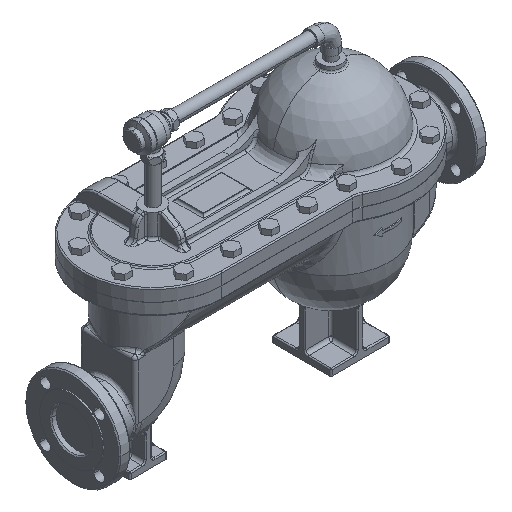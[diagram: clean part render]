
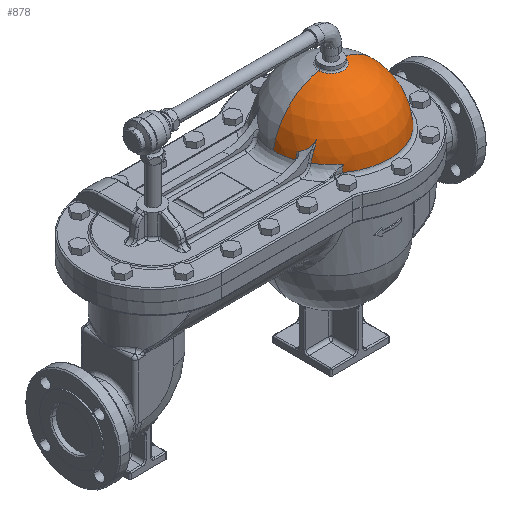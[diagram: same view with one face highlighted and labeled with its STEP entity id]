
A CAD part, isometric view. The second image highlights one B-rep face of the part: STEP entity #878.
In plain terms, the highlighted spherical face has radius 107 mm.
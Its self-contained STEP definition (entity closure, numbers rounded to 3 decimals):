
#878=ADVANCED_FACE('',(#9417),#9416,.T.);
#9416=SPHERICAL_SURFACE('',#21652,107.);
#9417=FACE_OUTER_BOUND('',#21653,.T.);
#21649=CARTESIAN_POINT('',(0.,0.,22.375));
#21650=DIRECTION('',(0.,0.,1.));
#21651=DIRECTION('',(-1.,0.009,0.));
#21652=AXIS2_PLACEMENT_3D('',#21649,#21650,#21651);
#21653=EDGE_LOOP('',(#26520,#26521,#26522,#26523,#26524,#26525,#26526,#26527,#26528,#26529,#26530,#26531,#26532));
#26520=ORIENTED_EDGE('',*,*,#28333,.F.);
#26521=ORIENTED_EDGE('',*,*,#28383,.F.);
#26522=ORIENTED_EDGE('',*,*,#28311,.T.);
#26523=ORIENTED_EDGE('',*,*,#28310,.T.);
#26524=ORIENTED_EDGE('',*,*,#28377,.F.);
#26525=ORIENTED_EDGE('',*,*,#28382,.F.);
#26526=ORIENTED_EDGE('',*,*,#28329,.F.);
#26527=ORIENTED_EDGE('',*,*,#28344,.F.);
#26528=ORIENTED_EDGE('',*,*,#28337,.F.);
#26529=ORIENTED_EDGE('',*,*,#29002,.T.);
#26530=ORIENTED_EDGE('',*,*,#29000,.F.);
#26531=ORIENTED_EDGE('',*,*,#28997,.F.);
#26532=ORIENTED_EDGE('',*,*,#29003,.F.);
#28310=EDGE_CURVE('',#38115,#38116,#38117,.T.);
#28311=EDGE_CURVE('',#38123,#38115,#38124,.T.);
#28329=EDGE_CURVE('',#38242,#38214,#38249,.T.);
#28333=EDGE_CURVE('',#38270,#38277,#38278,.T.);
#28337=EDGE_CURVE('',#38298,#38305,#38306,.T.);
#28344=EDGE_CURVE('',#38305,#38242,#38352,.T.);
#28377=EDGE_CURVE('',#38560,#38116,#38567,.T.);
#28382=EDGE_CURVE('',#38214,#38560,#38599,.T.);
#28383=EDGE_CURVE('',#38123,#38270,#38605,.T.);
#28997=EDGE_CURVE('',#42654,#42661,#42662,.T.);
#29000=EDGE_CURVE('',#42661,#42680,#42681,.T.);
#29002=EDGE_CURVE('',#38298,#42680,#42693,.T.);
#29003=EDGE_CURVE('',#38277,#42654,#42699,.T.);
#38115=VERTEX_POINT('',#49916);
#38116=VERTEX_POINT('',#49917);
#38117=(BOUNDED_CURVE() B_SPLINE_CURVE(3,(#49918,#49919,#49920,#49921,#49922,#49923,#49924,#49925,#49926,#49927,#49928,#49929,#49930,#49931),.UNSPECIFIED.,.F.,.F.) B_SPLINE_CURVE_WITH_KNOTS((4,2,2,2,2,2,4),(1.126,1.152,1.728,2.304,2.974,3.309,3.644),.UNSPECIFIED.) CURVE() GEOMETRIC_REPRESENTATION_ITEM() RATIONAL_B_SPLINE_CURVE((1.,1.,1.,1.,1.,1.,1.,1.,1.,1.,1.,1.,1.,1.)) REPRESENTATION_ITEM('') );
#38123=VERTEX_POINT('',#49932);
#38124=(BOUNDED_CURVE() B_SPLINE_CURVE(3,(#49933,#49934,#49935,#49936,#49937,#49938),.UNSPECIFIED.,.F.,.F.) B_SPLINE_CURVE_WITH_KNOTS((4,2,4),(5.045,5.344,5.69),.UNSPECIFIED.) CURVE() GEOMETRIC_REPRESENTATION_ITEM() RATIONAL_B_SPLINE_CURVE((1.,1.,1.,1.,1.,1.)) REPRESENTATION_ITEM('') );
#38214=VERTEX_POINT('',#50029);
#38242=VERTEX_POINT('',#50052);
#38249=CIRCLE('',#50064,105.479);
#38270=VERTEX_POINT('',#50078);
#38277=VERTEX_POINT('',#50086);
#38278=CIRCLE('',#50090,105.479);
#38298=VERTEX_POINT('',#50107);
#38305=VERTEX_POINT('',#50112);
#38306=CIRCLE('',#50116,106.849);
#38352=CIRCLE('',#50168,64.767);
#38560=VERTEX_POINT('',#50321);
#38567=(BOUNDED_CURVE() B_SPLINE_CURVE(3,(#50326,#50327,#50328,#50329,#50330,#50331),.UNSPECIFIED.,.F.,.F.) B_SPLINE_CURVE_WITH_KNOTS((4,2,4),(-1.447,0.,0.003),.UNSPECIFIED.) CURVE() GEOMETRIC_REPRESENTATION_ITEM() RATIONAL_B_SPLINE_CURVE((1.,1.,1.,1.,1.,1.)) REPRESENTATION_ITEM('') );
#38599=CIRCLE('',#50355,92.385);
#38605=CIRCLE('',#50359,101.216);
#42654=VERTEX_POINT('',#53207);
#42661=VERTEX_POINT('',#53212);
#42662=CIRCLE('',#53216,22.373);
#42680=VERTEX_POINT('',#53223);
#42681=CIRCLE('',#53227,22.373);
#42693=(BOUNDED_CURVE() B_SPLINE_CURVE(2,(#53232,#53233,#53234),.UNSPECIFIED.,.F.,.F.) B_SPLINE_CURVE_WITH_KNOTS((3,3),(0.,1.),.UNSPECIFIED.) CURVE() GEOMETRIC_REPRESENTATION_ITEM() RATIONAL_B_SPLINE_CURVE((1.,0.794,1.)) REPRESENTATION_ITEM('') );
#42699=(BOUNDED_CURVE() B_SPLINE_CURVE(2,(#53235,#53236,#53237),.UNSPECIFIED.,.F.,.F.) B_SPLINE_CURVE_WITH_KNOTS((3,3),(0.093,1.),.UNSPECIFIED.) CURVE() GEOMETRIC_REPRESENTATION_ITEM() RATIONAL_B_SPLINE_CURVE((0.724,0.61,0.75)) REPRESENTATION_ITEM('') );
#49916=CARTESIAN_POINT('',(-93.828,-40.,54.707));
#49917=CARTESIAN_POINT('',(-79.288,-52.,71.958));
#49918=CARTESIAN_POINT('',(-93.828,-40.,54.707));
#49919=CARTESIAN_POINT('',(-93.784,-40.071,54.746));
#49920=CARTESIAN_POINT('',(-93.74,-40.142,54.785));
#49921=CARTESIAN_POINT('',(-92.708,-41.799,55.711));
#49922=CARTESIAN_POINT('',(-91.66,-43.285,56.696));
#49923=CARTESIAN_POINT('',(-89.507,-45.95,58.846));
#49924=CARTESIAN_POINT('',(-88.403,-47.128,60.011));
#49925=CARTESIAN_POINT('',(-86.039,-49.268,62.672));
#49926=CARTESIAN_POINT('',(-84.621,-50.297,64.379));
#49927=CARTESIAN_POINT('',(-82.532,-51.323,67.15));
#49928=CARTESIAN_POINT('',(-81.842,-51.582,68.108));
#49929=CARTESIAN_POINT('',(-80.516,-51.921,70.039));
#49930=CARTESIAN_POINT('',(-79.88,-52.,71.011));
#49931=CARTESIAN_POINT('',(-79.288,-52.,71.958));
#49932=CARTESIAN_POINT('',(-96.705,-34.703,52.257));
#49933=CARTESIAN_POINT('',(-96.705,-34.703,52.257));
#49934=CARTESIAN_POINT('',(-96.292,-35.564,52.592));
#49935=CARTESIAN_POINT('',(-95.864,-36.407,52.946));
#49936=CARTESIAN_POINT('',(-94.909,-38.182,53.755));
#49937=CARTESIAN_POINT('',(-94.377,-39.107,54.216));
#49938=CARTESIAN_POINT('',(-93.828,-40.,54.707));
#50029=CARTESIAN_POINT('',(-90.619,-53.982,40.351));
#50052=CARTESIAN_POINT('',(-62.222,-85.172,40.351));
#50061=CARTESIAN_POINT('',(0.,0.,40.351));
#50062=DIRECTION('',(0.,0.,-1.));
#50063=DIRECTION('',(0.59,0.807,0.));
#50064=AXIS2_PLACEMENT_3D('',#50061,#50062,#50063);
#50078=CARTESIAN_POINT('',(-99.607,-34.703,40.351));
#50086=CARTESIAN_POINT('',(-105.475,0.92,40.351));
#50087=CARTESIAN_POINT('',(0.,0.,40.351));
#50088=DIRECTION('',(0.,0.,-1.));
#50089=DIRECTION('',(0.944,0.329,0.));
#50090=AXIS2_PLACEMENT_3D('',#50087,#50088,#50089);
#50107=CARTESIAN_POINT('',(106.845,-0.932,28.056));
#50112=CARTESIAN_POINT('',(-64.517,-85.172,28.056));
#50113=CARTESIAN_POINT('',(0.,0.,28.056));
#50114=DIRECTION('',(0.,0.,-1.));
#50115=DIRECTION('',(-0.604,0.797,0.));
#50116=AXIS2_PLACEMENT_3D('',#50113,#50114,#50115);
#50165=CARTESIAN_POINT('',(0.,-85.172,22.375));
#50166=DIRECTION('',(0.,1.,0.));
#50167=DIRECTION('',(0.996,0.,-0.088));
#50168=AXIS2_PLACEMENT_3D('',#50165,#50166,#50167);
#50321=CARTESIAN_POINT('',(-84.718,-53.982,59.224));
#50326=CARTESIAN_POINT('',(-84.718,-53.982,59.224));
#50327=CARTESIAN_POINT('',(-82.862,-53.982,63.489));
#50328=CARTESIAN_POINT('',(-81.133,-53.141,67.809));
#50329=CARTESIAN_POINT('',(-79.296,-52.005,71.94));
#50330=CARTESIAN_POINT('',(-79.292,-52.003,71.949));
#50331=CARTESIAN_POINT('',(-79.288,-52.,71.958));
#50352=CARTESIAN_POINT('',(0.,-53.982,22.375));
#50353=DIRECTION('',(0.,1.,0.));
#50354=DIRECTION('',(0.981,0.,-0.195));
#50355=AXIS2_PLACEMENT_3D('',#50352,#50353,#50354);
#50356=CARTESIAN_POINT('',(0.,-34.703,22.375));
#50357=DIRECTION('',(0.,-1.,0.));
#50358=DIRECTION('',(0.955,0.,-0.295));
#50359=AXIS2_PLACEMENT_3D('',#50356,#50357,#50358);
#53207=CARTESIAN_POINT('',(-22.372,0.195,127.01));
#53212=CARTESIAN_POINT('',(-22.373,0.,127.01));
#53213=CARTESIAN_POINT('',(0.,0.,127.01));
#53214=DIRECTION('',(0.,0.,1.));
#53215=DIRECTION('',(1.,0.,0.));
#53216=AXIS2_PLACEMENT_3D('',#53213,#53214,#53215);
#53223=CARTESIAN_POINT('',(22.372,-0.195,127.01));
#53224=CARTESIAN_POINT('',(0.,0.,127.01));
#53225=DIRECTION('',(0.,0.,1.));
#53226=DIRECTION('',(1.,0.,0.));
#53227=AXIS2_PLACEMENT_3D('',#53224,#53225,#53226);
#53232=CARTESIAN_POINT('',(106.845,-0.932,28.056));
#53233=CARTESIAN_POINT('',(102.495,-0.894,109.878));
#53234=CARTESIAN_POINT('',(22.372,-0.195,127.01));
#53235=CARTESIAN_POINT('',(-105.475,0.92,40.351));
#53236=CARTESIAN_POINT('',(-93.291,0.814,111.846));
#53237=CARTESIAN_POINT('',(-22.372,0.195,127.01));
